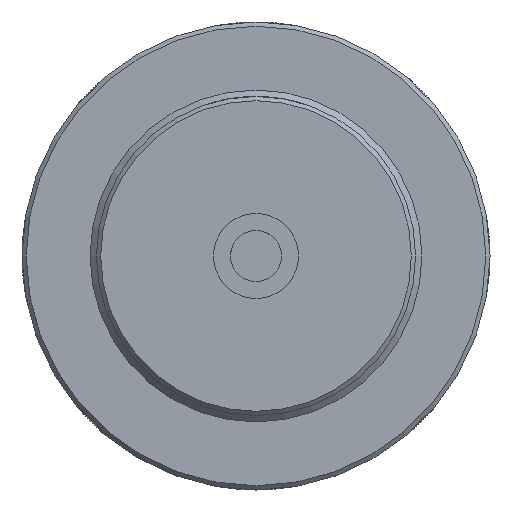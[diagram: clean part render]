
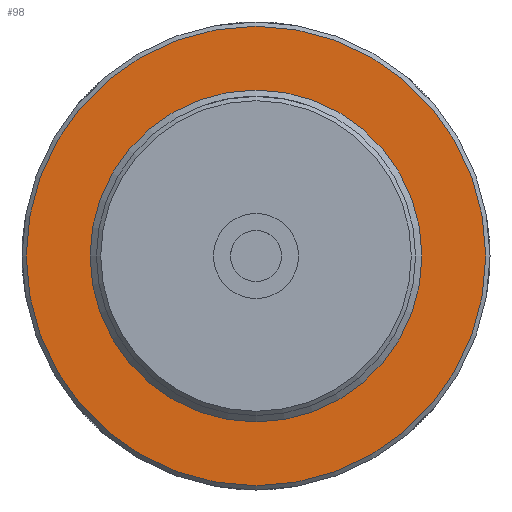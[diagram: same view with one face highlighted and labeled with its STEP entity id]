
A CAD part, left-side view. The second image highlights one B-rep face of the part: STEP entity #98.
In plain terms, the highlighted planar face has unit normal (-1, 0, 0).
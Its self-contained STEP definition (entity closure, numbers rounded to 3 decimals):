
#98 = ADVANCED_FACE( '', ( #198, #199 ), #200, .T. );
#198 = FACE_OUTER_BOUND( '', #339, .T. );
#199 = FACE_BOUND( '', #340, .T. );
#200 = PLANE( '', #341 );
#339 = EDGE_LOOP( '', ( #527 ) );
#340 = EDGE_LOOP( '', ( #528 ) );
#341 = AXIS2_PLACEMENT_3D( '', #529, #530, #531 );
#527 = ORIENTED_EDGE( '', *, *, #653, .T. );
#528 = ORIENTED_EDGE( '', *, *, #640, .T. );
#529 = CARTESIAN_POINT( '', ( 47., 0., 39. ) );
#530 = DIRECTION( '', ( -1., 0., 0. ) );
#531 = DIRECTION( '', ( 0., 0., 1. ) );
#640 = EDGE_CURVE( '', #699, #699, #700, .F. );
#653 = EDGE_CURVE( '', #723, #723, #724, .T. );
#699 = VERTEX_POINT( '', #919 );
#700 = CIRCLE( '', #920, 39. );
#723 = VERTEX_POINT( '', #1333 );
#724 = CIRCLE( '', #1334, 54. );
#919 = CARTESIAN_POINT( '', ( 47., 0., 39. ) );
#920 = AXIS2_PLACEMENT_3D( '', #1490, #1491, #1492 );
#1333 = CARTESIAN_POINT( '', ( 47., 0., 54. ) );
#1334 = AXIS2_PLACEMENT_3D( '', #1508, #1509, #1510 );
#1490 = CARTESIAN_POINT( '', ( 47., 0., 0. ) );
#1491 = DIRECTION( '', ( -1., 0., 0. ) );
#1492 = DIRECTION( '', ( 0., 0., 1. ) );
#1508 = CARTESIAN_POINT( '', ( 47., 0., 0. ) );
#1509 = DIRECTION( '', ( -1., 0., 0. ) );
#1510 = DIRECTION( '', ( 0., 0., 1. ) );
